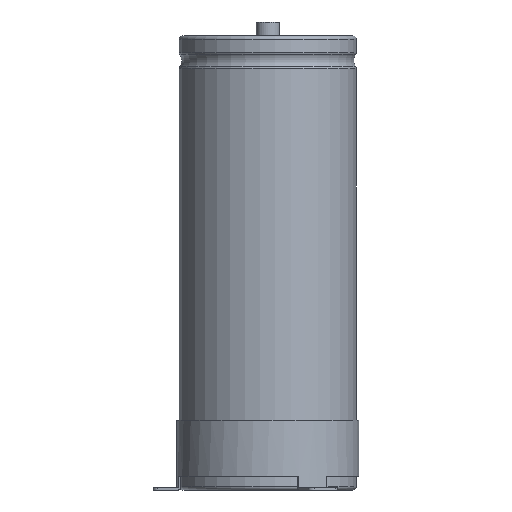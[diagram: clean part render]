
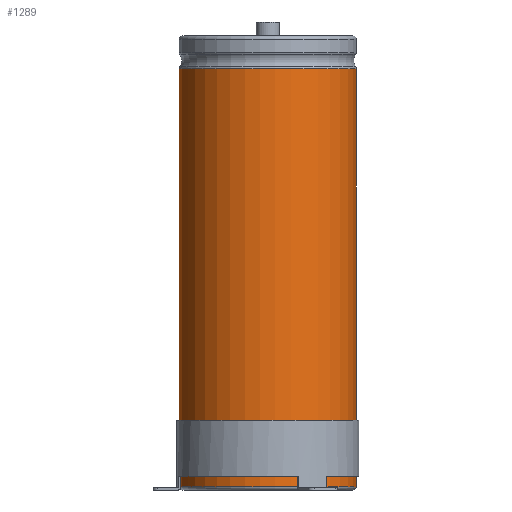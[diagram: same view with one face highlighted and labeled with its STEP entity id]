
A CAD part, front view. The second image highlights one B-rep face of the part: STEP entity #1289.
In plain terms, the highlighted cylindrical face has radius 38.1 mm (diameter 76.2 mm), a partial arc.
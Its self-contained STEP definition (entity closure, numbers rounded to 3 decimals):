
#233=LINE('',#6601,#447);
#234=LINE('',#6605,#448);
#447=VECTOR('',#5224,1.);
#448=VECTOR('',#5227,1.);
#695=FACE_OUTER_BOUND('',#1741,.T.);
#1289=ADVANCED_FACE('',(#695),#1519,.T.);
#1519=CYLINDRICAL_SURFACE('',#4585,38.1);
#1741=EDGE_LOOP('',(#2147,#2148,#2149,#2150));
#2147=ORIENTED_EDGE('',*,*,#3702,.T.);
#2148=ORIENTED_EDGE('',*,*,#3703,.T.);
#2149=ORIENTED_EDGE('',*,*,#3704,.F.);
#2150=ORIENTED_EDGE('',*,*,#3705,.F.);
#3274=VERTEX_POINT('',#6594);
#3276=VERTEX_POINT('',#6598);
#3277=VERTEX_POINT('',#6602);
#3278=VERTEX_POINT('',#6604);
#3702=EDGE_CURVE('',#3274,#3276,#4267,.T.);
#3703=EDGE_CURVE('',#3276,#3277,#233,.T.);
#3704=EDGE_CURVE('',#3278,#3277,#4268,.T.);
#3705=EDGE_CURVE('',#3274,#3278,#234,.T.);
#4267=CIRCLE('',#4582,38.1);
#4268=CIRCLE('',#4584,38.1);
#4582=AXIS2_PLACEMENT_3D('',#6599,#5220,#5221);
#4584=AXIS2_PLACEMENT_3D('',#6603,#5225,#5226);
#4585=AXIS2_PLACEMENT_3D('',#6606,#5228,#5229);
#5220=DIRECTION('',(0.,0.,-1.));
#5221=DIRECTION('',(0.,1.,0.));
#5224=DIRECTION('',(0.,0.,-1.));
#5225=DIRECTION('',(0.,0.,-1.));
#5226=DIRECTION('',(0.,1.,0.));
#5227=DIRECTION('',(0.,0.,-1.));
#5228=DIRECTION('',(0.,0.,-1.));
#5229=DIRECTION('',(0.,1.,0.));
#6594=CARTESIAN_POINT('',(3.983,37.891,180.9));
#6598=CARTESIAN_POINT('',(-3.983,37.891,180.9));
#6599=CARTESIAN_POINT('',(0.,0.,180.9));
#6601=CARTESIAN_POINT('',(-3.983,37.891,180.9));
#6602=CARTESIAN_POINT('',(-3.983,37.891,1.5));
#6603=CARTESIAN_POINT('',(0.,0.,1.5));
#6604=CARTESIAN_POINT('',(3.983,37.891,1.5));
#6605=CARTESIAN_POINT('',(3.983,37.891,180.9));
#6606=CARTESIAN_POINT('',(0.,0.,0.));
